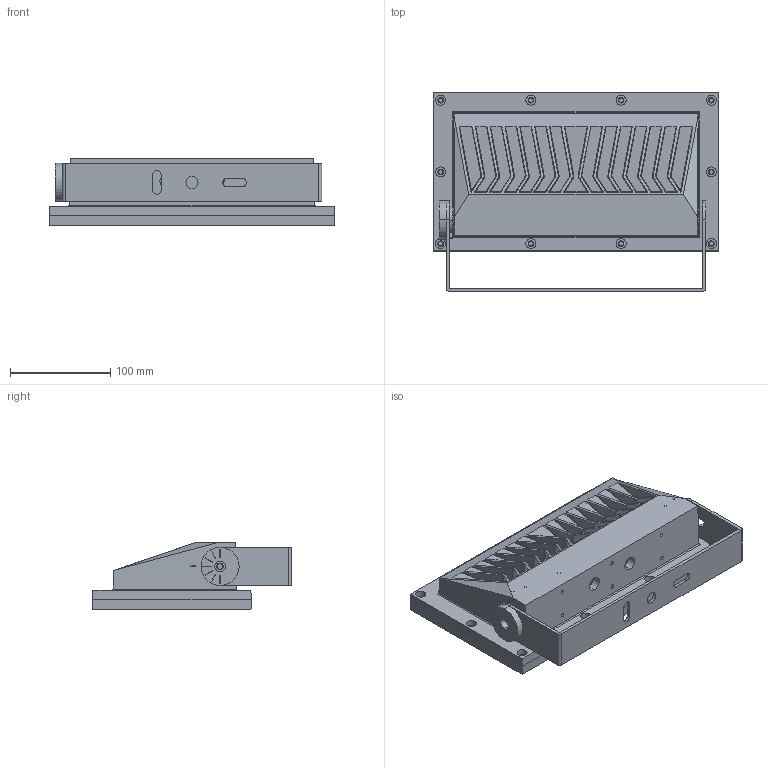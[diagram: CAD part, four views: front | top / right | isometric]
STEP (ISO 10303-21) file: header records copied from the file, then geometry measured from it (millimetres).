
FILE_DESCRIPTION((''),'2;1');
FILE_NAME('C7GKB1257_ASM_1_ASM','2024-11-23T',('C028'),(''),'CREO PARAMETRIC BY PTC INC, 2014190','CREO PARAMETRIC BY PTC INC, 2014190','');
FILE_SCHEMA(('CONFIG_CONTROL_DESIGN'));
Products named in the file (18): DENGTI002_39_10_1_1; MIANGAI002_18_2_1_1; BOLI002_7GK_22_1_1; FSQ_8_2_1_1; MOZHU001_2_20_7_1_1; DAZHUIJIA004_2_24_2_1_1; CIKUAI001_2_19_2_1_1; AL_LUO_ZHU-2_4_1_1; SCREW_M3X10_1_1_1; 7GK-_1-7_1; 7GK-__1; 000_ASM_1_ASM; 000_ASM_ASM; 7GK-_; XINLVJIBAN-00_1; LENS-00_45_1; C20_ASM_1_ASM; C7GKB1257_ASM_1_ASM
Assembly tree (21 placements, depth 4):
  C7GKB1257_ASM_1_ASM
    DENGTI002_39_10_1_1
    MIANGAI002_18_2_1_1
    BOLI002_7GK_22_1_1
    FSQ_8_2_1_1
    MOZHU001_2_20_7_1_1
    DAZHUIJIA004_2_24_2_1_1
    CIKUAI001_2_19_2_1_1
    AL_LUO_ZHU-2_4_1_1  x2
    SCREW_M3X10_1_1_1  x2
    000_ASM_ASM
      000_ASM_1_ASM
        7GK-_1-7_1
        7GK-__1
    7GK-_
    C20_ASM_1_ASM
      XINLVJIBAN-00_1
      LENS-00_45_1  x3
Bounding box: 285 x 198 x 66 mm (x, y, z)
Volume: 843407.9 mm3; surface area: 565361.6 mm2
Topology: 18 solids, 18 shells, 2554 faces, 6893 edges, 4554 vertices
Faces by surface type: plane 1474, cylinder 649, bspline 160, cone 139, torus 91, sphere 32, extrusion 9
Entity records: 84151 total; most frequent: CARTESIAN_POINT 22281, ORIENTED_EDGE 13198, DIRECTION 12201, EDGE_CURVE 6599, VERTEX_POINT 4380, AXIS2_PLACEMENT_3D 4088, VECTOR 4025, LINE 4022
